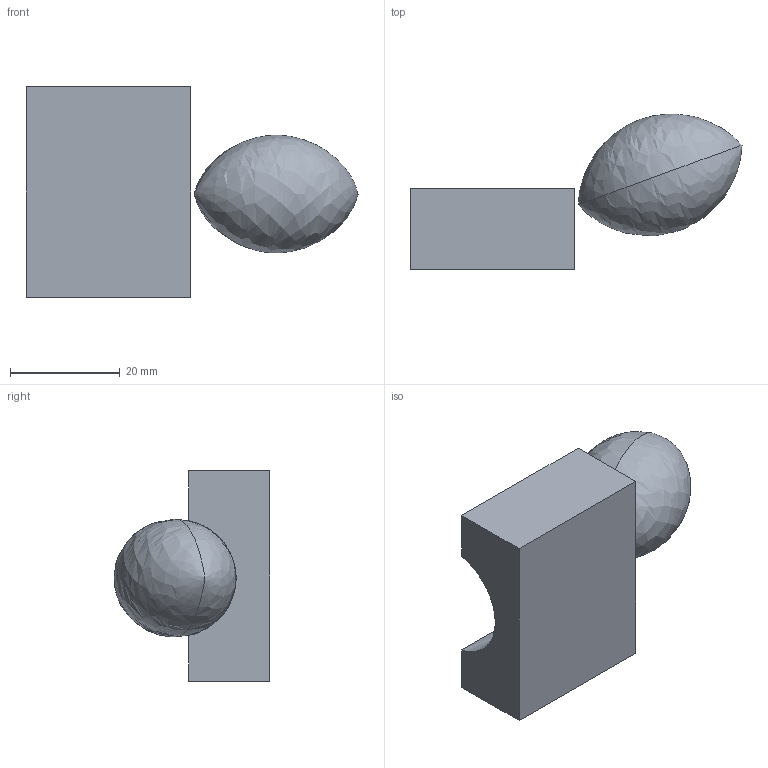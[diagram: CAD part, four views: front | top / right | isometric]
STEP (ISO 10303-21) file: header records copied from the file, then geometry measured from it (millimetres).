
FILE_DESCRIPTION(/* description */ (''),/* implementation_level */ '2;1');
FILE_NAME(/* name */ 'Dozer_aus_Rhino',/* time_stamp */ '2005-05-31T15:08:28+02:00',/* author */ (''),/* organization */ (''),/* preprocessor_version */ 'ST-DEVELOPER v8',/* originating_system */ '',/* authorisation */ '');
FILE_SCHEMA (('AUTOMOTIVE_DESIGN'));
Length unit declared in the file: millimetre
Products named in the file (1): 1
Bounding box: 60.45 x 28.36 x 38.34 mm (x, y, z)
Volume: 6890.8 mm3; surface area: 6094.2 mm2
Topology: 1 solids, 3 shells, 10 faces, 32 edges, 25 vertices
Faces by surface type: bspline 10
Entity records: 608 total; most frequent: CARTESIAN_POINT 432, ORIENTED_EDGE 40, B_SPLINE_CURVE_WITH_KNOTS 26, EDGE_CURVE 24, VERTEX_POINT 18, ADVANCED_FACE 10, FACE_OUTER_BOUND 10, EDGE_LOOP 10
